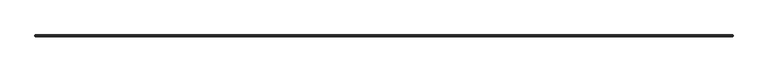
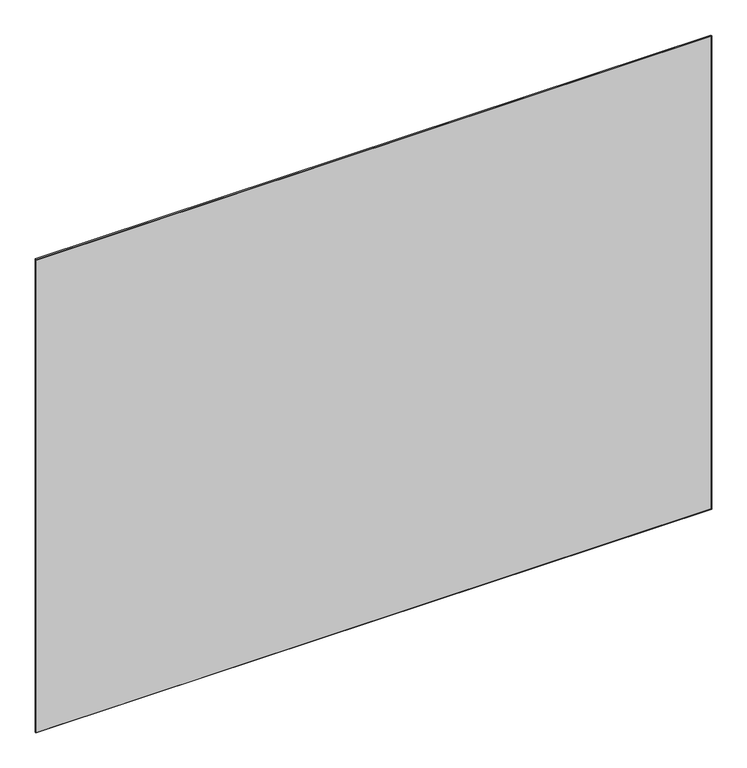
"""IFC4 building model written with IfcOpenShell, lengths in millimetres: plate geometry, 11-AMG-1-Панель одинарный витраж 10-12 : Центр Толщина 10mm."""

from ifc_helpers import new_model, si_unit, origin, place, context, project, spatial, faceted_brep, source, transform, mapped, element, save


def plate_f45a8219(model_context):
    return source(origin(), model_context, "Body", "Brep", [
        faceted_brep([(1873.8, -3.4961653, 2777.6), (1873.8, 3.4961653, 2777.6), (-1873.8, 3.4961653, 2777.6), (-1873.8, -3.4961653, 2777.6), (1873.8, 3.4961653, 5.0), (1873.8, -3.4961653, 5.0), (-1873.8, -3.4961653, 5.0), (-1873.8, 3.4961653, 5.0), (-1872.2961653, 5.0, 2776.0961653), (1872.2961653, 5.0, 2776.0961653), (1872.2961653, 5.0, 6.4960578), (-1872.2961653, 5.0, 6.4960578), (1872.2961653, -5.0, 2776.0961653), (-1872.2961653, -5.0, 2776.0961653), (-1872.2961653, -5.0, 6.5038347), (1872.2961653, -5.0, 6.5038347)], [[[0, 1, 2, 3]], [[4, 5, 6, 7]], [[8, 9, 10, 11]], [[3, 2, 7, 6]], [[12, 13, 14, 15]], [[1, 0, 5, 4]], [[1, 4, 10, 9]], [[5, 0, 12, 15]], [[7, 2, 8, 11]], [[3, 6, 14, 13]], [[0, 3, 13, 12]], [[2, 1, 9, 8]], [[6, 5, 15, 14]], [[4, 7, 11, 10]]]),
    ])


if __name__ == "__main__":
    model = new_model("IFC4")
    model_context = context("Model", 3, world=origin())
    ifc_project = project(units=[si_unit("LENGTHUNIT", "METRE", prefix="MILLI")], contexts=[model_context])
    site = spatial("IfcSite", under=ifc_project)
    building = spatial("IfcBuilding", under=site)
    placement = place(None, origin())
    plate_shape = plate_f45a8219(model_context)
    element("IfcPlate", 1, ObjectType="11-AMG-1-Панель одинарный витраж 10-12 : Центр Толщина 10mm", at=placement, inside=building, context=model_context, shape_type="MappedRepresentation", body=[
        mapped(plate_shape, transform((0.0, 0.0, 0.0), x_axis=(1.0, 0.0, 0.0), y_axis=(0.0, 1.0, 0.0), z_axis=(0.0, 0.0, 1.0))),
    ])
    save(model, "model.ifc")
